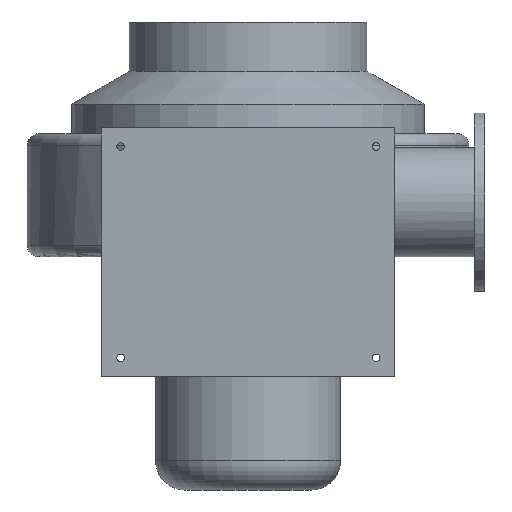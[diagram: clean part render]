
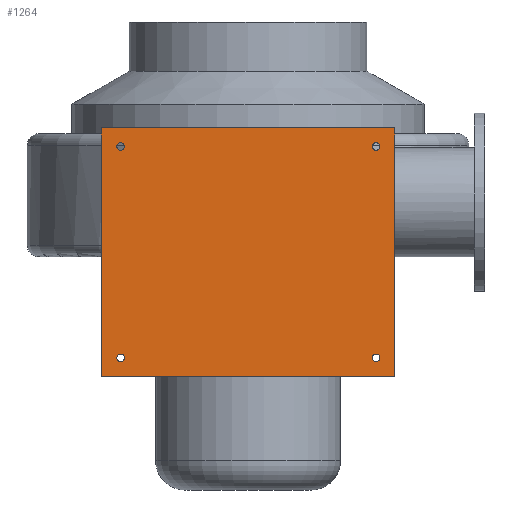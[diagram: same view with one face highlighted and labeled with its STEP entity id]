
A CAD part, front view. The second image highlights one B-rep face of the part: STEP entity #1264.
In plain terms, the highlighted planar face has unit normal (0, -1, 0).
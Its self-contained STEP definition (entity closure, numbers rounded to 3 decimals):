
#3 = EDGE_CURVE ( 'NONE', #1955, #565, #674, .T. ) ;
#14 = EDGE_CURVE ( 'NONE', #2063, #1538, #1212, .T. ) ;
#32 = CARTESIAN_POINT ( 'NONE',  ( -217., -439., 95. ) ) ;
#37 = AXIS2_PLACEMENT_3D ( 'NONE', #1840, #1645, #1754 ) ;
#100 = CARTESIAN_POINT ( 'NONE',  ( 250., -439., 126.5 ) ) ;
#108 = EDGE_CURVE ( 'NONE', #990, #2327, #651, .T. ) ;
#112 = DIRECTION ( 'NONE',  ( -1., 0., 0. ) ) ;
#145 = DIRECTION ( 'NONE',  ( 0., -1., 0. ) ) ;
#147 = EDGE_CURVE ( 'NONE', #653, #990, #1990, .T. ) ;
#174 = AXIS2_PLACEMENT_3D ( 'NONE', #1078, #1824, #2336 ) ;
#184 = FACE_BOUND ( 'NONE', #2088, .T. ) ;
#193 = EDGE_CURVE ( 'NONE', #653, #1359, #595, .T. ) ;
#255 = AXIS2_PLACEMENT_3D ( 'NONE', #862, #2123, #1041 ) ;
#302 = CARTESIAN_POINT ( 'NONE',  ( -250., -439., 0. ) ) ;
#312 = CIRCLE ( 'NONE', #1998, 6.5 ) ;
#392 = EDGE_CURVE ( 'NONE', #1535, #1427, #312, .T. ) ;
#396 = DIRECTION ( 'NONE',  ( 0., 1., 0. ) ) ;
#411 = DIRECTION ( 'NONE',  ( 0., 0., 1. ) ) ;
#453 = CARTESIAN_POINT ( 'NONE',  ( -217., -439., 101.5 ) ) ;
#455 = CARTESIAN_POINT ( 'NONE',  ( 250., -439., -296.5 ) ) ;
#499 = DIRECTION ( 'NONE',  ( 0., 0., -1. ) ) ;
#536 = VECTOR ( 'NONE', #599, 1000. ) ;
#552 = CIRCLE ( 'NONE', #1960, 6.5 ) ;
#565 = VERTEX_POINT ( 'NONE', #2332 ) ;
#568 = EDGE_LOOP ( 'NONE', ( #686, #700 ) ) ;
#569 = DIRECTION ( 'NONE',  ( 0., -1., 0. ) ) ;
#584 = EDGE_CURVE ( 'NONE', #1893, #2116, #1352, .T. ) ;
#595 = LINE ( 'NONE', #1963, #709 ) ;
#599 = DIRECTION ( 'NONE',  ( -1., 0., 0. ) ) ;
#608 = CIRCLE ( 'NONE', #255, 6.5 ) ;
#612 = CARTESIAN_POINT ( 'NONE',  ( 250., -439., -296.5 ) ) ;
#646 = CARTESIAN_POINT ( 'NONE',  ( 218., -439., 95. ) ) ;
#648 = CARTESIAN_POINT ( 'NONE',  ( 218., -439., 88.5 ) ) ;
#651 = LINE ( 'NONE', #612, #536 ) ;
#653 = VERTEX_POINT ( 'NONE', #1306 ) ;
#673 = ORIENTED_EDGE ( 'NONE', *, *, #1054, .F. ) ;
#674 = CIRCLE ( 'NONE', #174, 6.5 ) ;
#677 = ORIENTED_EDGE ( 'NONE', *, *, #584, .F. ) ;
#686 = ORIENTED_EDGE ( 'NONE', *, *, #1072, .F. ) ;
#696 = FACE_BOUND ( 'NONE', #1187, .T. ) ;
#700 = ORIENTED_EDGE ( 'NONE', *, *, #392, .F. ) ;
#702 = ORIENTED_EDGE ( 'NONE', *, *, #1105, .F. ) ;
#706 = ORIENTED_EDGE ( 'NONE', *, *, #3, .F. ) ;
#709 = VECTOR ( 'NONE', #112, 1000. ) ;
#714 = ORIENTED_EDGE ( 'NONE', *, *, #14, .F. ) ;
#734 = ORIENTED_EDGE ( 'NONE', *, *, #1502, .F. ) ;
#736 = ORIENTED_EDGE ( 'NONE', *, *, #2251, .T. ) ;
#761 = ORIENTED_EDGE ( 'NONE', *, *, #108, .F. ) ;
#780 = ORIENTED_EDGE ( 'NONE', *, *, #147, .F. ) ;
#782 = ORIENTED_EDGE ( 'NONE', *, *, #193, .T. ) ;
#822 = DIRECTION ( 'NONE',  ( 0., 0., -1. ) ) ;
#862 = CARTESIAN_POINT ( 'NONE',  ( -217., -439., -265. ) ) ;
#868 = CARTESIAN_POINT ( 'NONE',  ( 218., -439., 101.5 ) ) ;
#900 = DIRECTION ( 'NONE',  ( 0., -1., 0. ) ) ;
#921 = VECTOR ( 'NONE', #499, 1000. ) ;
#990 = VERTEX_POINT ( 'NONE', #455 ) ;
#1033 = CARTESIAN_POINT ( 'NONE',  ( -217., -439., 88.5 ) ) ;
#1041 = DIRECTION ( 'NONE',  ( 0., 0., -1. ) ) ;
#1054 = EDGE_CURVE ( 'NONE', #2116, #1893, #2006, .T. ) ;
#1072 = EDGE_CURVE ( 'NONE', #1427, #1535, #1094, .T. ) ;
#1078 = CARTESIAN_POINT ( 'NONE',  ( 218., -439., -265. ) ) ;
#1087 = CARTESIAN_POINT ( 'NONE',  ( 218., -439., -265. ) ) ;
#1094 = CIRCLE ( 'NONE', #2032, 6.5 ) ;
#1105 = EDGE_CURVE ( 'NONE', #565, #1955, #552, .T. ) ;
#1119 = FACE_BOUND ( 'NONE', #568, .T. ) ;
#1141 = PLANE ( 'NONE',  #1258 ) ;
#1187 = EDGE_LOOP ( 'NONE', ( #702, #706 ) ) ;
#1212 = CIRCLE ( 'NONE', #37, 6.5 ) ;
#1258 = AXIS2_PLACEMENT_3D ( 'NONE', #1326, #396, #411 ) ;
#1264 = ADVANCED_FACE ( 'NONE', ( #184, #1119, #696, #2132, #2077 ), #1141, .F. ) ;
#1268 = CARTESIAN_POINT ( 'NONE',  ( 218., -439., 95. ) ) ;
#1275 = DIRECTION ( 'NONE',  ( 0., 0., -1. ) ) ;
#1306 = CARTESIAN_POINT ( 'NONE',  ( 250., -439., 126.5 ) ) ;
#1326 = CARTESIAN_POINT ( 'NONE',  ( 250., -439., 0. ) ) ;
#1352 = CIRCLE ( 'NONE', #2234, 6.5 ) ;
#1359 = VERTEX_POINT ( 'NONE', #1549 ) ;
#1397 = CARTESIAN_POINT ( 'NONE',  ( -217., -439., -271.5 ) ) ;
#1427 = VERTEX_POINT ( 'NONE', #648 ) ;
#1447 = DIRECTION ( 'NONE',  ( 0., 0., -1. ) ) ;
#1502 = EDGE_CURVE ( 'NONE', #1538, #2063, #608, .T. ) ;
#1535 = VERTEX_POINT ( 'NONE', #868 ) ;
#1538 = VERTEX_POINT ( 'NONE', #2131 ) ;
#1549 = CARTESIAN_POINT ( 'NONE',  ( -250., -439., 126.5 ) ) ;
#1596 = EDGE_LOOP ( 'NONE', ( #714, #734 ) ) ;
#1645 = DIRECTION ( 'NONE',  ( 0., -1., 0. ) ) ;
#1741 = EDGE_LOOP ( 'NONE', ( #736, #761, #780, #782 ) ) ;
#1754 = DIRECTION ( 'NONE',  ( 0., 0., -1. ) ) ;
#1824 = DIRECTION ( 'NONE',  ( 0., -1., 0. ) ) ;
#1840 = CARTESIAN_POINT ( 'NONE',  ( -217., -439., -265. ) ) ;
#1893 = VERTEX_POINT ( 'NONE', #453 ) ;
#1927 = DIRECTION ( 'NONE',  ( 0., -1., 0. ) ) ;
#1955 = VERTEX_POINT ( 'NONE', #2270 ) ;
#1960 = AXIS2_PLACEMENT_3D ( 'NONE', #1087, #2355, #1275 ) ;
#1963 = CARTESIAN_POINT ( 'NONE',  ( 250., -439., 126.5 ) ) ;
#1987 = CARTESIAN_POINT ( 'NONE',  ( -217., -439., 95. ) ) ;
#1990 = LINE ( 'NONE', #100, #2090 ) ;
#1998 = AXIS2_PLACEMENT_3D ( 'NONE', #646, #1927, #822 ) ;
#2006 = CIRCLE ( 'NONE', #2071, 6.5 ) ;
#2032 = AXIS2_PLACEMENT_3D ( 'NONE', #1268, #145, #1447 ) ;
#2063 = VERTEX_POINT ( 'NONE', #1397 ) ;
#2071 = AXIS2_PLACEMENT_3D ( 'NONE', #1987, #900, #2159 ) ;
#2077 = FACE_OUTER_BOUND ( 'NONE', #1741, .T. ) ;
#2088 = EDGE_LOOP ( 'NONE', ( #673, #677 ) ) ;
#2090 = VECTOR ( 'NONE', #2307, 1000. ) ;
#2116 = VERTEX_POINT ( 'NONE', #1033 ) ;
#2123 = DIRECTION ( 'NONE',  ( 0., -1., 0. ) ) ;
#2131 = CARTESIAN_POINT ( 'NONE',  ( -217., -439., -258.5 ) ) ;
#2132 = FACE_BOUND ( 'NONE', #1596, .T. ) ;
#2138 = CARTESIAN_POINT ( 'NONE',  ( -250., -439., -296.5 ) ) ;
#2159 = DIRECTION ( 'NONE',  ( 0., 0., -1. ) ) ;
#2178 = DIRECTION ( 'NONE',  ( 0., 0., -1. ) ) ;
#2234 = AXIS2_PLACEMENT_3D ( 'NONE', #32, #569, #2178 ) ;
#2243 = LINE ( 'NONE', #302, #921 ) ;
#2251 = EDGE_CURVE ( 'NONE', #1359, #2327, #2243, .T. ) ;
#2270 = CARTESIAN_POINT ( 'NONE',  ( 218., -439., -258.5 ) ) ;
#2307 = DIRECTION ( 'NONE',  ( 0., 0., -1. ) ) ;
#2327 = VERTEX_POINT ( 'NONE', #2138 ) ;
#2332 = CARTESIAN_POINT ( 'NONE',  ( 218., -439., -271.5 ) ) ;
#2336 = DIRECTION ( 'NONE',  ( 0., 0., -1. ) ) ;
#2355 = DIRECTION ( 'NONE',  ( 0., -1., 0. ) ) ;
